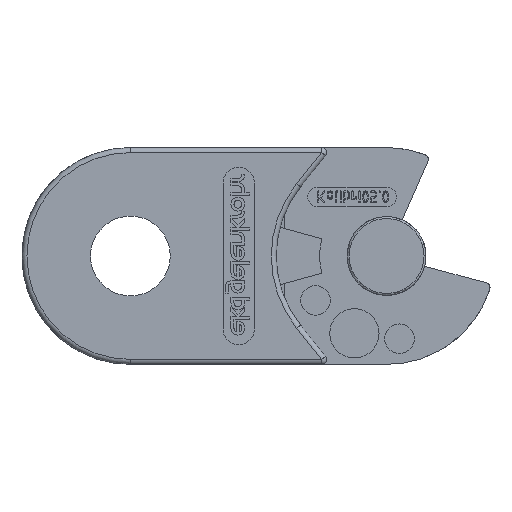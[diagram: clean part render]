
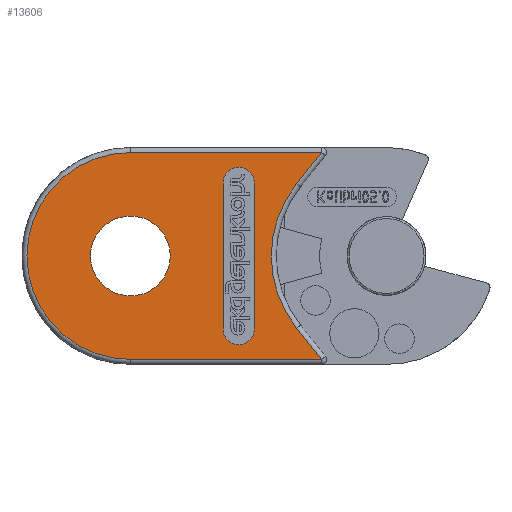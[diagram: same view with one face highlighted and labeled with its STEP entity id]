
A CAD part, left-side view. The second image highlights one B-rep face of the part: STEP entity #13606.
In plain terms, the highlighted planar face has unit normal (-1, 0, 0).
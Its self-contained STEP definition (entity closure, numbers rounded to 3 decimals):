
#789=CARTESIAN_POINT('',(-2.8,8.95,11.));
#790=VERTEX_POINT('',#789);
#791=CARTESIAN_POINT('',(-2.8,13.,11.));
#792=DIRECTION('',(-1.0,0.0,0.0));
#793=DIRECTION('',(0.0,1.0,0.0));
#794=AXIS2_PLACEMENT_3D('',#791,#792,#793);
#795=CIRCLE('',#794,4.05);
#796=EDGE_CURVE('',#790,#790,#795,.T.);
#943=CARTESIAN_POINT('',(-2.8,13.,0.5));
#944=VERTEX_POINT('',#943);
#960=CARTESIAN_POINT('',(-2.8,-6.419,0.5));
#961=VERTEX_POINT('',#960);
#969=CARTESIAN_POINT('',(-2.8,13.,0.5));
#970=DIRECTION('',(0.0,-1.0,0.0));
#971=VECTOR('',#970,19.419);
#972=LINE('',#969,#971);
#973=EDGE_CURVE('',#944,#961,#972,.T.);
#983=CARTESIAN_POINT('',(-2.8,-6.419,21.5));
#984=VERTEX_POINT('',#983);
#1000=CARTESIAN_POINT('',(-2.8,13.,21.5));
#1001=VERTEX_POINT('',#1000);
#1009=CARTESIAN_POINT('',(-2.8,-6.419,21.5));
#1010=DIRECTION('',(0.0,1.0,0.0));
#1011=VECTOR('',#1010,19.419);
#1012=LINE('',#1009,#1011);
#1013=EDGE_CURVE('',#984,#1001,#1012,.T.);
#1038=CARTESIAN_POINT('',(-2.8,-3.868,3.686));
#1039=VERTEX_POINT('',#1038);
#1047=CARTESIAN_POINT('',(-2.8,-6.419,0.5));
#1048=DIRECTION('',(0.0,0.625,0.781));
#1049=VECTOR('',#1048,4.082);
#1050=LINE('',#1047,#1049);
#1051=EDGE_CURVE('',#961,#1039,#1050,.T.);
#1063=CARTESIAN_POINT('',(-2.8,-3.868,18.314));
#1064=VERTEX_POINT('',#1063);
#1085=CARTESIAN_POINT('',(-2.8,-3.868,18.314));
#1086=DIRECTION('',(0.0,-0.625,0.781));
#1087=VECTOR('',#1086,4.082);
#1088=LINE('',#1085,#1087);
#1089=EDGE_CURVE('',#1064,#984,#1088,.T.);
#11728=CARTESIAN_POINT('',(-2.8,3.6,3.6));
#11729=VERTEX_POINT('',#11728);
#11730=CARTESIAN_POINT('',(-2.8,0.4,3.6));
#11731=VERTEX_POINT('',#11730);
#11732=CARTESIAN_POINT('',(-2.8,2.,3.6));
#11733=DIRECTION('',(-1.0,0.0,0.0));
#11734=DIRECTION('',(0.0,-1.0,0.0));
#11735=AXIS2_PLACEMENT_3D('',#11732,#11733,#11734);
#11736=CIRCLE('',#11735,1.6);
#11737=EDGE_CURVE('',#11729,#11731,#11736,.T.);
#11770=CARTESIAN_POINT('',(-2.8,0.4,18.4));
#11771=VERTEX_POINT('',#11770);
#11772=CARTESIAN_POINT('',(-2.8,0.4,3.6));
#11773=DIRECTION('',(0.0,0.0,1.0));
#11774=VECTOR('',#11773,14.8);
#11775=LINE('',#11772,#11774);
#11776=EDGE_CURVE('',#11731,#11771,#11775,.T.);
#13535=CARTESIAN_POINT('',(-2.8,3.6,18.4));
#13536=VERTEX_POINT('',#13535);
#13537=CARTESIAN_POINT('',(-2.8,2.,18.4));
#13538=DIRECTION('',(-1.0,0.0,0.0));
#13539=DIRECTION('',(0.0,-1.0,0.0));
#13540=AXIS2_PLACEMENT_3D('',#13537,#13538,#13539);
#13541=CIRCLE('',#13540,1.6);
#13542=EDGE_CURVE('',#11771,#13536,#13541,.T.);
#13560=CARTESIAN_POINT('',(-2.8,3.6,18.4));
#13561=DIRECTION('',(0.0,0.0,-1.0));
#13562=VECTOR('',#13561,14.8);
#13563=LINE('',#13560,#13562);
#13564=EDGE_CURVE('',#13536,#11729,#13563,.T.);
#13572=CARTESIAN_POINT('',(-2.8,6.728,11.));
#13573=DIRECTION('',(1.0,0.0,0.0));
#13574=DIRECTION('',(0.0,0.0,-1.0));
#13575=AXIS2_PLACEMENT_3D('',#13572,#13573,#13574);
#13576=PLANE('',#13575);
#13577=ORIENTED_EDGE('',*,*,#1089,.T.);
#13578=ORIENTED_EDGE('',*,*,#1013,.T.);
#13579=CARTESIAN_POINT('',(-2.8,13.,11.));
#13580=DIRECTION('',(-1.0,0.0,0.0));
#13581=DIRECTION('',(0.0,1.0,0.0));
#13582=AXIS2_PLACEMENT_3D('',#13579,#13580,#13581);
#13583=CIRCLE('',#13582,10.5);
#13584=EDGE_CURVE('',#1001,#944,#13583,.T.);
#13585=ORIENTED_EDGE('',*,*,#13584,.T.);
#13586=ORIENTED_EDGE('',*,*,#973,.T.);
#13587=ORIENTED_EDGE('',*,*,#1051,.T.);
#13588=CARTESIAN_POINT('',(-2.8,-13.,11.));
#13589=DIRECTION('',(1.0,0.0,0.0));
#13590=DIRECTION('',(0.0,1.0,0.0));
#13591=AXIS2_PLACEMENT_3D('',#13588,#13589,#13590);
#13592=CIRCLE('',#13591,11.7);
#13593=EDGE_CURVE('',#1039,#1064,#13592,.T.);
#13594=ORIENTED_EDGE('',*,*,#13593,.T.);
#13595=EDGE_LOOP('',(#13577,#13578,#13585,#13586,#13587,#13594));
#13596=FACE_OUTER_BOUND('',#13595,.T.);
#13597=ORIENTED_EDGE('',*,*,#796,.F.);
#13598=EDGE_LOOP('',(#13597));
#13599=FACE_BOUND('',#13598,.T.);
#13600=ORIENTED_EDGE('',*,*,#13542,.F.);
#13601=ORIENTED_EDGE('',*,*,#11776,.F.);
#13602=ORIENTED_EDGE('',*,*,#11737,.F.);
#13603=ORIENTED_EDGE('',*,*,#13564,.F.);
#13604=EDGE_LOOP('',(#13600,#13601,#13602,#13603));
#13605=FACE_BOUND('',#13604,.T.);
#13606=ADVANCED_FACE('',(#13596,#13599,#13605),#13576,.F.);
